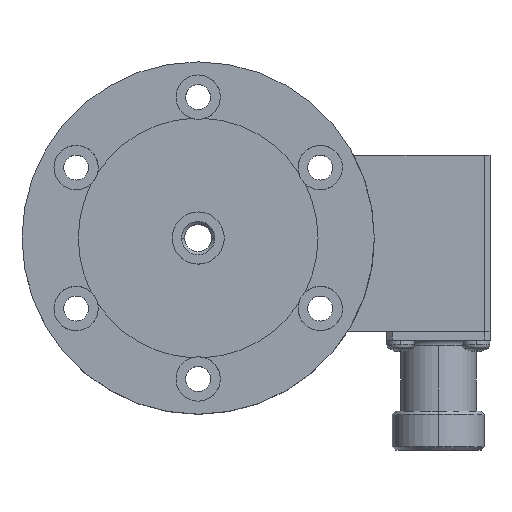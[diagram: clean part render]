
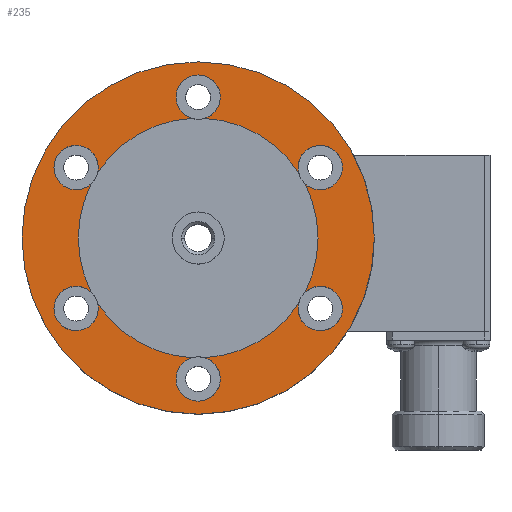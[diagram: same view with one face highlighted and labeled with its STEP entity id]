
A CAD part, top view. The second image highlights one B-rep face of the part: STEP entity #235.
In plain terms, the highlighted planar face has unit normal (0, 0, 1).
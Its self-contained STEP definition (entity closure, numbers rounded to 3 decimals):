
#235=ADVANCED_FACE('',(#595,#596),#597,.T.);
#595=FACE_BOUND('',#998,.T.);
#596=FACE_OUTER_BOUND('',#999,.T.);
#597=PLANE('',#1000);
#998=EDGE_LOOP('',(#2322,#2323,#2324,#2325,#2326,#2327,#2328,#2329,#2330,#2331,#2332,#2333,#2334,#2335,#2336,#2337,#2338,#2339,#2340,#2341));
#999=EDGE_LOOP('',(#2342,#2343));
#1000=AXIS2_PLACEMENT_3D('',#2344,#2345,#2346);
#2322=ORIENTED_EDGE('',*,*,#2649,.T.);
#2323=ORIENTED_EDGE('',*,*,#3011,.T.);
#2324=ORIENTED_EDGE('',*,*,#3012,.T.);
#2325=ORIENTED_EDGE('',*,*,#2643,.T.);
#2326=ORIENTED_EDGE('',*,*,#3013,.T.);
#2327=ORIENTED_EDGE('',*,*,#3014,.T.);
#2328=ORIENTED_EDGE('',*,*,#2637,.T.);
#2329=ORIENTED_EDGE('',*,*,#3015,.T.);
#2330=ORIENTED_EDGE('',*,*,#2633,.T.);
#2331=ORIENTED_EDGE('',*,*,#3016,.T.);
#2332=ORIENTED_EDGE('',*,*,#2627,.T.);
#2333=ORIENTED_EDGE('',*,*,#3017,.T.);
#2334=ORIENTED_EDGE('',*,*,#3018,.T.);
#2335=ORIENTED_EDGE('',*,*,#2621,.T.);
#2336=ORIENTED_EDGE('',*,*,#3019,.T.);
#2337=ORIENTED_EDGE('',*,*,#3020,.T.);
#2338=ORIENTED_EDGE('',*,*,#2615,.T.);
#2339=ORIENTED_EDGE('',*,*,#3021,.T.);
#2340=ORIENTED_EDGE('',*,*,#3022,.T.);
#2341=ORIENTED_EDGE('',*,*,#2595,.T.);
#2342=ORIENTED_EDGE('',*,*,#2581,.F.);
#2343=ORIENTED_EDGE('',*,*,#3023,.F.);
#2344=CARTESIAN_POINT('',(15.875,0.,20.3));
#2345=DIRECTION('',(0.,0.,1.0));
#2346=DIRECTION('',(-1.0,0.,0.));
#2581=EDGE_CURVE('',#3053,#3056,#3057,.T.);
#2595=EDGE_CURVE('',#3078,#3082,#3084,.T.);
#2615=EDGE_CURVE('',#3120,#3117,#3121,.T.);
#2621=EDGE_CURVE('',#3132,#3129,#3133,.T.);
#2627=EDGE_CURVE('',#3144,#3141,#3145,.T.);
#2633=EDGE_CURVE('',#3156,#3153,#3157,.T.);
#2637=EDGE_CURVE('',#3164,#3161,#3165,.T.);
#2643=EDGE_CURVE('',#3176,#3173,#3177,.T.);
#2649=EDGE_CURVE('',#3082,#3185,#3188,.T.);
#3011=EDGE_CURVE('',#3185,#3774,#3776,.T.);
#3012=EDGE_CURVE('',#3774,#3176,#3777,.T.);
#3013=EDGE_CURVE('',#3173,#3778,#3779,.T.);
#3014=EDGE_CURVE('',#3778,#3164,#3780,.T.);
#3015=EDGE_CURVE('',#3161,#3156,#3781,.T.);
#3016=EDGE_CURVE('',#3153,#3144,#3782,.T.);
#3017=EDGE_CURVE('',#3141,#3783,#3784,.T.);
#3018=EDGE_CURVE('',#3783,#3132,#3785,.T.);
#3019=EDGE_CURVE('',#3129,#3786,#3787,.T.);
#3020=EDGE_CURVE('',#3786,#3120,#3788,.T.);
#3021=EDGE_CURVE('',#3117,#3789,#3790,.T.);
#3022=EDGE_CURVE('',#3789,#3078,#3791,.T.);
#3023=EDGE_CURVE('',#3056,#3053,#3792,.T.);
#3053=VERTEX_POINT('',#3826);
#3056=VERTEX_POINT('',#3830);
#3057=CIRCLE('',#3831,31.75);
#3078=VERTEX_POINT('',#3857);
#3082=VERTEX_POINT('',#3862);
#3084=CIRCLE('',#3865,21.6);
#3117=VERTEX_POINT('',#3908);
#3120=VERTEX_POINT('',#3912);
#3121=CIRCLE('',#3913,4.0);
#3129=VERTEX_POINT('',#3923);
#3132=VERTEX_POINT('',#3927);
#3133=CIRCLE('',#3928,4.0);
#3141=VERTEX_POINT('',#3938);
#3144=VERTEX_POINT('',#3942);
#3145=CIRCLE('',#3943,4.0);
#3153=VERTEX_POINT('',#3953);
#3156=VERTEX_POINT('',#3957);
#3157=CIRCLE('',#3958,21.6);
#3161=VERTEX_POINT('',#3963);
#3164=VERTEX_POINT('',#3967);
#3165=CIRCLE('',#3968,4.0);
#3173=VERTEX_POINT('',#3978);
#3176=VERTEX_POINT('',#3982);
#3177=CIRCLE('',#3983,4.0);
#3185=VERTEX_POINT('',#3993);
#3188=CIRCLE('',#3997,4.0);
#3774=VERTEX_POINT('',#5263);
#3776=CIRCLE('',#5266,4.0);
#3777=CIRCLE('',#5267,21.6);
#3778=VERTEX_POINT('',#5268);
#3779=CIRCLE('',#5269,4.0);
#3780=CIRCLE('',#5270,21.6);
#3781=CIRCLE('',#5271,4.0);
#3782=CIRCLE('',#5272,21.6);
#3783=VERTEX_POINT('',#5273);
#3784=CIRCLE('',#5274,4.0);
#3785=CIRCLE('',#5275,21.6);
#3786=VERTEX_POINT('',#5276);
#3787=CIRCLE('',#5277,4.0);
#3788=CIRCLE('',#5278,21.6);
#3789=VERTEX_POINT('',#5279);
#3790=CIRCLE('',#5280,4.0);
#3791=CIRCLE('',#5281,21.6);
#3792=CIRCLE('',#5282,31.75);
#3826=CARTESIAN_POINT('',(31.75,0.,20.3));
#3830=CARTESIAN_POINT('',(-31.75,0.,20.3));
#3831=AXIS2_PLACEMENT_3D('',#5321,#5322,#5323);
#3857=CARTESIAN_POINT('',(-21.6,0.,20.3));
#3862=CARTESIAN_POINT('',(-19.255,9.788,20.3));
#3865=AXIS2_PLACEMENT_3D('',#5349,#5350,#5351);
#3908=CARTESIAN_POINT('',(-25.461,-14.7,20.3));
#3912=CARTESIAN_POINT('',(-18.104,-11.782,20.3));
#3913=AXIS2_PLACEMENT_3D('',#5387,#5388,#5389);
#3923=CARTESIAN_POINT('',(0.,-29.4,20.3));
#3927=CARTESIAN_POINT('',(1.151,-21.569,20.3));
#3928=AXIS2_PLACEMENT_3D('',#5399,#5400,#5401);
#3938=CARTESIAN_POINT('',(25.461,-14.7,20.3));
#3942=CARTESIAN_POINT('',(19.255,-9.788,20.3));
#3943=AXIS2_PLACEMENT_3D('',#5411,#5412,#5413);
#3953=CARTESIAN_POINT('',(21.6,0.,20.3));
#3957=CARTESIAN_POINT('',(19.255,9.788,20.3));
#3958=AXIS2_PLACEMENT_3D('',#5423,#5424,#5425);
#3963=CARTESIAN_POINT('',(25.461,14.7,20.3));
#3967=CARTESIAN_POINT('',(18.104,11.782,20.3));
#3968=AXIS2_PLACEMENT_3D('',#5431,#5432,#5433);
#3978=CARTESIAN_POINT('',(0.,29.4,20.3));
#3982=CARTESIAN_POINT('',(-1.151,21.569,20.3));
#3983=AXIS2_PLACEMENT_3D('',#5443,#5444,#5445);
#3993=CARTESIAN_POINT('',(-25.461,14.7,20.3));
#3997=AXIS2_PLACEMENT_3D('',#5455,#5456,#5457);
#5263=CARTESIAN_POINT('',(-18.104,11.782,20.3));
#5266=AXIS2_PLACEMENT_3D('',#6047,#6048,#6049);
#5267=AXIS2_PLACEMENT_3D('',#6050,#6051,#6052);
#5268=CARTESIAN_POINT('',(1.151,21.569,20.3));
#5269=AXIS2_PLACEMENT_3D('',#6053,#6054,#6055);
#5270=AXIS2_PLACEMENT_3D('',#6056,#6057,#6058);
#5271=AXIS2_PLACEMENT_3D('',#6059,#6060,#6061);
#5272=AXIS2_PLACEMENT_3D('',#6062,#6063,#6064);
#5273=CARTESIAN_POINT('',(18.104,-11.782,20.3));
#5274=AXIS2_PLACEMENT_3D('',#6065,#6066,#6067);
#5275=AXIS2_PLACEMENT_3D('',#6068,#6069,#6070);
#5276=CARTESIAN_POINT('',(-1.151,-21.569,20.3));
#5277=AXIS2_PLACEMENT_3D('',#6071,#6072,#6073);
#5278=AXIS2_PLACEMENT_3D('',#6074,#6075,#6076);
#5279=CARTESIAN_POINT('',(-19.255,-9.788,20.3));
#5280=AXIS2_PLACEMENT_3D('',#6077,#6078,#6079);
#5281=AXIS2_PLACEMENT_3D('',#6080,#6081,#6082);
#5282=AXIS2_PLACEMENT_3D('',#6083,#6084,#6085);
#5321=CARTESIAN_POINT('',(0.0,0.,20.3));
#5322=DIRECTION('',(0.0,0.,-1.0));
#5323=DIRECTION('',(1.0,0.0,0.0));
#5349=CARTESIAN_POINT('',(0.0,0.,20.3));
#5350=DIRECTION('',(0.,0.,-1.0));
#5351=DIRECTION('',(1.0,0.,0.));
#5387=CARTESIAN_POINT('',(-21.997,-12.7,20.3));
#5388=DIRECTION('',(0.,0.,-1.0));
#5389=DIRECTION('',(-0.866,-0.5,0.));
#5399=CARTESIAN_POINT('',(0.,-25.4,20.3));
#5400=DIRECTION('',(0.,0.,-1.0));
#5401=DIRECTION('',(0.,-1.0,0.));
#5411=CARTESIAN_POINT('',(21.997,-12.7,20.3));
#5412=DIRECTION('',(0.,0.,-1.0));
#5413=DIRECTION('',(0.866,-0.5,0.));
#5423=CARTESIAN_POINT('',(0.0,0.,20.3));
#5424=DIRECTION('',(0.,0.,-1.0));
#5425=DIRECTION('',(1.0,0.,0.));
#5431=CARTESIAN_POINT('',(21.997,12.7,20.3));
#5432=DIRECTION('',(0.,0.,-1.0));
#5433=DIRECTION('',(0.866,0.5,0.));
#5443=CARTESIAN_POINT('',(0.,25.4,20.3));
#5444=DIRECTION('',(0.,0.,-1.0));
#5445=DIRECTION('',(0.,1.0,0.));
#5455=CARTESIAN_POINT('',(-21.997,12.7,20.3));
#5456=DIRECTION('',(0.,0.,-1.0));
#5457=DIRECTION('',(-0.866,0.5,0.));
#6047=CARTESIAN_POINT('',(-21.997,12.7,20.3));
#6048=DIRECTION('',(0.,0.,-1.0));
#6049=DIRECTION('',(-0.866,0.5,0.));
#6050=CARTESIAN_POINT('',(0.0,0.,20.3));
#6051=DIRECTION('',(0.,0.,-1.0));
#6052=DIRECTION('',(1.0,0.,0.));
#6053=CARTESIAN_POINT('',(0.,25.4,20.3));
#6054=DIRECTION('',(0.,0.,-1.0));
#6055=DIRECTION('',(0.,1.0,0.));
#6056=CARTESIAN_POINT('',(0.0,0.,20.3));
#6057=DIRECTION('',(0.,0.,-1.0));
#6058=DIRECTION('',(1.0,0.,0.));
#6059=CARTESIAN_POINT('',(21.997,12.7,20.3));
#6060=DIRECTION('',(0.,0.,-1.0));
#6061=DIRECTION('',(0.866,0.5,0.));
#6062=CARTESIAN_POINT('',(0.0,0.,20.3));
#6063=DIRECTION('',(0.,0.,-1.0));
#6064=DIRECTION('',(1.0,0.,0.));
#6065=CARTESIAN_POINT('',(21.997,-12.7,20.3));
#6066=DIRECTION('',(0.,0.,-1.0));
#6067=DIRECTION('',(0.866,-0.5,0.));
#6068=CARTESIAN_POINT('',(0.0,0.,20.3));
#6069=DIRECTION('',(0.,0.,-1.0));
#6070=DIRECTION('',(1.0,0.,0.));
#6071=CARTESIAN_POINT('',(0.,-25.4,20.3));
#6072=DIRECTION('',(0.,0.,-1.0));
#6073=DIRECTION('',(0.,-1.0,0.));
#6074=CARTESIAN_POINT('',(0.0,0.,20.3));
#6075=DIRECTION('',(0.,0.,-1.0));
#6076=DIRECTION('',(1.0,0.,0.));
#6077=CARTESIAN_POINT('',(-21.997,-12.7,20.3));
#6078=DIRECTION('',(0.,0.,-1.0));
#6079=DIRECTION('',(-0.866,-0.5,0.));
#6080=CARTESIAN_POINT('',(0.0,0.,20.3));
#6081=DIRECTION('',(0.,0.,-1.0));
#6082=DIRECTION('',(1.0,0.,0.));
#6083=CARTESIAN_POINT('',(0.0,0.,20.3));
#6084=DIRECTION('',(0.0,0.,-1.0));
#6085=DIRECTION('',(1.0,0.0,0.0));
